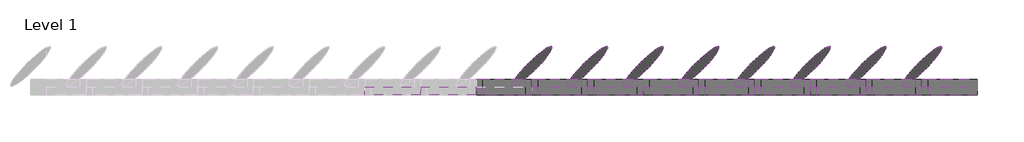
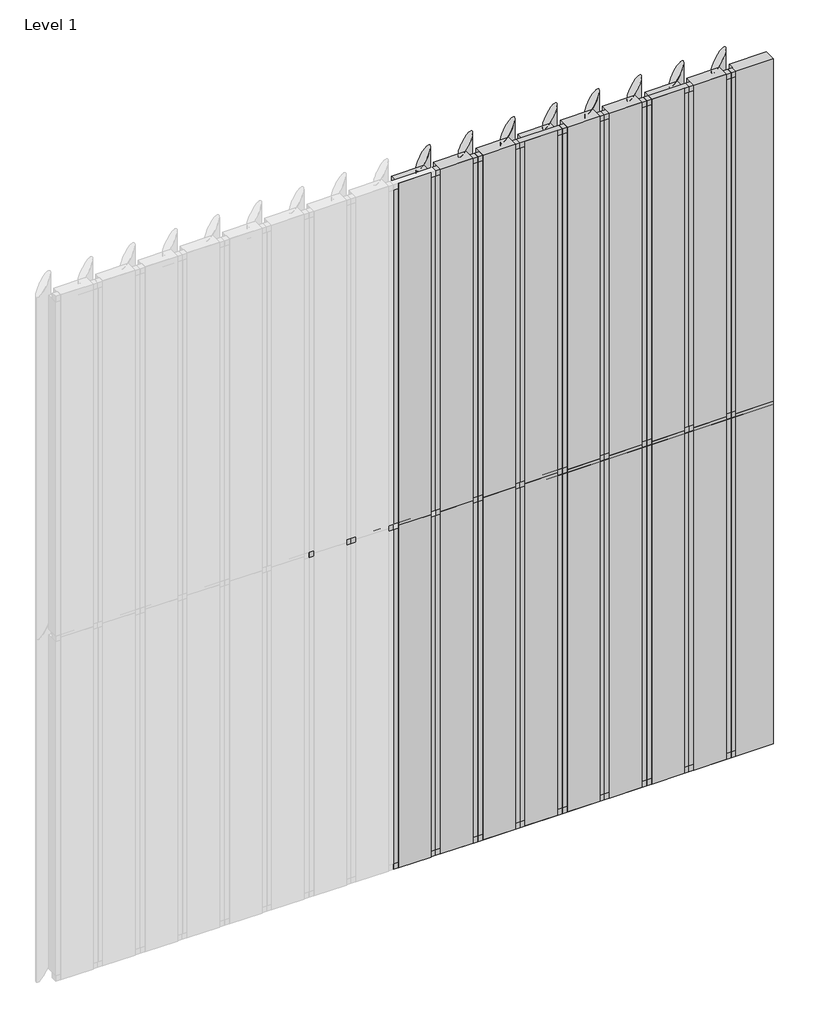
# One storey, part 2 of 2: 43 members, 36 plates.
"""IFC4 building model written with IfcOpenShell, lengths in millimetres."""

from ifc_helpers import new_model, si_unit, origin, place, context, project, spatial, transform, mapped, element, save
from components import rectangular_mullion_80596749, rectangular_mullion_98250b89, rectangular_mullion_795f5a7c, rectangular_mullion_94c598e1, empty_system_panel_empty_e9c97825, empty_system_panel_empty_78d8e544, empty_system_panel_empty_5c88f992

model = new_model("IFC4")

# Units and contexts
model_context = context("Model", 3, world=origin())
ifc_project = project(units=[si_unit("LENGTHUNIT", "METRE", prefix="MILLI")], contexts=[model_context])

# Site, building, storey
site = spatial("IfcSite", under=ifc_project)
building = spatial("IfcBuilding", under=site)
storey = spatial("IfcBuildingStorey", under=building, Name="Level 1", Elevation=0.0)

# Members
placement = place(None, origin())
rectangular_mullion_shape = rectangular_mullion_80596749(model_context)
element("IfcMember", 1, ObjectType="Rectangular Mullion : RSen_21_CWM_blade - 350 ellips - 45°_gen_duco projects", at=placement, inside=storey, context=model_context, shape_type="MappedRepresentation", body=[
    mapped(rectangular_mullion_shape, transform((5650.0, 3000.0, 0.0), x_axis=(-1.0, 0.0, 0.0), y_axis=(0.0, 1.0, 0.0), z_axis=(0.0, 0.0, -1.0))),
])
element("IfcMember", 2, ObjectType="Rectangular Mullion : RSen_21_CWM_blade - 350 ellips - 45°_gen_duco projects", at=placement, inside=storey, context=model_context, shape_type="MappedRepresentation", body=[
    mapped(rectangular_mullion_shape, transform((5300.0, 3000.0, 0.0), x_axis=(-1.0, 0.0, 0.0), y_axis=(0.0, 1.0, 0.0), z_axis=(0.0, 0.0, -1.0))),
])
element("IfcMember", 3, ObjectType="Rectangular Mullion : RSen_21_CWM_blade - 350 ellips - 45°_gen_duco projects", at=placement, inside=storey, context=model_context, shape_type="MappedRepresentation", body=[
    mapped(rectangular_mullion_shape, transform((4950.0, 3000.0, 0.0), x_axis=(-1.0, 0.0, 0.0), y_axis=(0.0, 1.0, 0.0), z_axis=(0.0, 0.0, -1.0))),
])
element("IfcMember", 4, ObjectType="Rectangular Mullion : RSen_21_CWM_blade - 350 ellips - 45°_gen_duco projects", at=placement, inside=storey, context=model_context, shape_type="MappedRepresentation", body=[
    mapped(rectangular_mullion_shape, transform((4600.0, 3000.0, 0.0), x_axis=(-1.0, 0.0, 0.0), y_axis=(0.0, 1.0, 0.0), z_axis=(0.0, 0.0, -1.0))),
])
element("IfcMember", 5, ObjectType="Rectangular Mullion : RSen_21_CWM_blade - 350 ellips - 45°_gen_duco projects", at=placement, inside=storey, context=model_context, shape_type="MappedRepresentation", body=[
    mapped(rectangular_mullion_shape, transform((4250.0, 3000.0, 0.0), x_axis=(-1.0, 0.0, 0.0), y_axis=(0.0, 1.0, 0.0), z_axis=(0.0, 0.0, -1.0))),
])
element("IfcMember", 6, ObjectType="Rectangular Mullion : RSen_21_CWM_blade - 350 ellips - 45°_gen_duco projects", at=placement, inside=storey, context=model_context, shape_type="MappedRepresentation", body=[
    mapped(rectangular_mullion_shape, transform((3900.0, 3000.0, 0.0), x_axis=(-1.0, 0.0, 0.0), y_axis=(0.0, 1.0, 0.0), z_axis=(0.0, 0.0, -1.0))),
])
element("IfcMember", 7, ObjectType="Rectangular Mullion : RSen_21_CWM_blade - 350 ellips - 45°_gen_duco projects", at=placement, inside=storey, context=model_context, shape_type="MappedRepresentation", body=[
    mapped(rectangular_mullion_shape, transform((3550.0, 3000.0, 0.0), x_axis=(-1.0, 0.0, 0.0), y_axis=(0.0, 1.0, 0.0), z_axis=(0.0, 0.0, -1.0))),
])
element("IfcMember", 8, ObjectType="Rectangular Mullion : RSen_21_CWM_blade - 350 ellips - 45°_gen_duco projects", at=placement, inside=storey, context=model_context, shape_type="MappedRepresentation", body=[
    mapped(rectangular_mullion_shape, transform((3200.0, 3000.0, 0.0), x_axis=(-1.0, 0.0, 0.0), y_axis=(0.0, 1.0, 0.0), z_axis=(0.0, 0.0, -1.0))),
])
element("IfcMember", 9, ObjectType="Rectangular Mullion : RSen_21_CWM_blade - 350 ellips - 45°_gen_duco projects", at=placement, inside=storey, context=model_context, shape_type="MappedRepresentation", body=[
    mapped(rectangular_mullion_shape, transform((5650.0, 3000.0, 3000.0), x_axis=(-1.0, 0.0, 0.0), y_axis=(0.0, 1.0, 0.0), z_axis=(0.0, 0.0, -1.0))),
])
element("IfcMember", 10, ObjectType="Rectangular Mullion : RSen_21_CWM_blade - 350 ellips - 45°_gen_duco projects", at=placement, inside=storey, context=model_context, shape_type="MappedRepresentation", body=[
    mapped(rectangular_mullion_shape, transform((5300.0, 3000.0, 3000.0), x_axis=(-1.0, 0.0, 0.0), y_axis=(0.0, 1.0, 0.0), z_axis=(0.0, 0.0, -1.0))),
])
element("IfcMember", 11, ObjectType="Rectangular Mullion : RSen_21_CWM_blade - 350 ellips - 45°_gen_duco projects", at=placement, inside=storey, context=model_context, shape_type="MappedRepresentation", body=[
    mapped(rectangular_mullion_shape, transform((4950.0, 3000.0, 3000.0), x_axis=(-1.0, 0.0, 0.0), y_axis=(0.0, 1.0, 0.0), z_axis=(0.0, 0.0, -1.0))),
])
element("IfcMember", 12, ObjectType="Rectangular Mullion : RSen_21_CWM_blade - 350 ellips - 45°_gen_duco projects", at=placement, inside=storey, context=model_context, shape_type="MappedRepresentation", body=[
    mapped(rectangular_mullion_shape, transform((4600.0, 3000.0, 3000.0), x_axis=(-1.0, 0.0, 0.0), y_axis=(0.0, 1.0, 0.0), z_axis=(0.0, 0.0, -1.0))),
])
element("IfcMember", 13, ObjectType="Rectangular Mullion : RSen_21_CWM_blade - 350 ellips - 45°_gen_duco projects", at=placement, inside=storey, context=model_context, shape_type="MappedRepresentation", body=[
    mapped(rectangular_mullion_shape, transform((4250.0, 3000.0, 3000.0), x_axis=(-1.0, 0.0, 0.0), y_axis=(0.0, 1.0, 0.0), z_axis=(0.0, 0.0, -1.0))),
])
element("IfcMember", 14, ObjectType="Rectangular Mullion : RSen_21_CWM_blade - 350 ellips - 45°_gen_duco projects", at=placement, inside=storey, context=model_context, shape_type="MappedRepresentation", body=[
    mapped(rectangular_mullion_shape, transform((3900.0, 3000.0, 3000.0), x_axis=(-1.0, 0.0, 0.0), y_axis=(0.0, 1.0, 0.0), z_axis=(0.0, 0.0, -1.0))),
])
element("IfcMember", 15, ObjectType="Rectangular Mullion : RSen_21_CWM_blade - 350 ellips - 45°_gen_duco projects", at=placement, inside=storey, context=model_context, shape_type="MappedRepresentation", body=[
    mapped(rectangular_mullion_shape, transform((3550.0, 3000.0, 3000.0), x_axis=(-1.0, 0.0, 0.0), y_axis=(0.0, 1.0, 0.0), z_axis=(0.0, 0.0, -1.0))),
])
element("IfcMember", 16, ObjectType="Rectangular Mullion : RSen_21_CWM_blade - 350 ellips - 45°_gen_duco projects", at=placement, inside=storey, context=model_context, shape_type="MappedRepresentation", body=[
    mapped(rectangular_mullion_shape, transform((3200.0, 3000.0, 3000.0), x_axis=(-1.0, 0.0, 0.0), y_axis=(0.0, 1.0, 0.0), z_axis=(0.0, 0.0, -1.0))),
])
rectangular_mullion_2_shape = rectangular_mullion_98250b89(model_context)
element("IfcMember", 17, ObjectType="Rectangular Mullion : RSen_21_CWM_support profile 50x50 - right_gen_duco projects", at=placement, inside=storey, context=model_context, shape_type="MappedRepresentation", body=[
    mapped(rectangular_mullion_2_shape, transform((6000.0, 3000.0, 0.0), x_axis=(0.0, 0.0, -1.0), y_axis=(0.0, 1.0, 0.0), z_axis=(1.0, 0.0, 0.0))),
])
rectangular_mullion_3_shape = rectangular_mullion_795f5a7c(model_context)
element("IfcMember", 18, ObjectType="Rectangular Mullion : RSen_21_CWM_support profile 50x50 - left_gen_duco projects", at=placement, inside=storey, context=model_context, shape_type="MappedRepresentation", body=[
    mapped(rectangular_mullion_3_shape, transform((5650.0, 3000.0, 6000.0), x_axis=(0.0, 0.0, 1.0), y_axis=(0.0, 1.0, 0.0), z_axis=(-1.0, 0.0, 0.0))),
])
element("IfcMember", 19, ObjectType="Rectangular Mullion : RSen_21_CWM_support profile 50x50 - left_gen_duco projects", at=placement, inside=storey, context=model_context, shape_type="MappedRepresentation", body=[
    mapped(rectangular_mullion_3_shape, transform((5300.0, 3000.0, 6000.0), x_axis=(0.0, 0.0, 1.0), y_axis=(0.0, 1.0, 0.0), z_axis=(-1.0, 0.0, 0.0))),
])
element("IfcMember", 20, ObjectType="Rectangular Mullion : RSen_21_CWM_support profile 50x50 - left_gen_duco projects", at=placement, inside=storey, context=model_context, shape_type="MappedRepresentation", body=[
    mapped(rectangular_mullion_3_shape, transform((4950.0, 3000.0, 6000.0), x_axis=(0.0, 0.0, 1.0), y_axis=(0.0, 1.0, 0.0), z_axis=(-1.0, 0.0, 0.0))),
])
element("IfcMember", 21, ObjectType="Rectangular Mullion : RSen_21_CWM_support profile 50x50 - left_gen_duco projects", at=placement, inside=storey, context=model_context, shape_type="MappedRepresentation", body=[
    mapped(rectangular_mullion_3_shape, transform((4600.0, 3000.0, 6000.0), x_axis=(0.0, 0.0, 1.0), y_axis=(0.0, 1.0, 0.0), z_axis=(-1.0, 0.0, 0.0))),
])
element("IfcMember", 22, ObjectType="Rectangular Mullion : RSen_21_CWM_support profile 50x50 - left_gen_duco projects", at=placement, inside=storey, context=model_context, shape_type="MappedRepresentation", body=[
    mapped(rectangular_mullion_3_shape, transform((4250.0, 3000.0, 6000.0), x_axis=(0.0, 0.0, 1.0), y_axis=(0.0, 1.0, 0.0), z_axis=(-1.0, 0.0, 0.0))),
])
element("IfcMember", 23, ObjectType="Rectangular Mullion : RSen_21_CWM_support profile 50x50 - left_gen_duco projects", at=placement, inside=storey, context=model_context, shape_type="MappedRepresentation", body=[
    mapped(rectangular_mullion_3_shape, transform((3900.0, 3000.0, 6000.0), x_axis=(0.0, 0.0, 1.0), y_axis=(0.0, 1.0, 0.0), z_axis=(-1.0, 0.0, 0.0))),
])
element("IfcMember", 24, ObjectType="Rectangular Mullion : RSen_21_CWM_support profile 50x50 - left_gen_duco projects", at=placement, inside=storey, context=model_context, shape_type="MappedRepresentation", body=[
    mapped(rectangular_mullion_3_shape, transform((3550.0, 3000.0, 6000.0), x_axis=(0.0, 0.0, 1.0), y_axis=(0.0, 1.0, 0.0), z_axis=(-1.0, 0.0, 0.0))),
])
element("IfcMember", 25, ObjectType="Rectangular Mullion : RSen_21_CWM_support profile 50x50 - left_gen_duco projects", at=placement, inside=storey, context=model_context, shape_type="MappedRepresentation", body=[
    mapped(rectangular_mullion_3_shape, transform((3200.0, 3000.0, 6000.0), x_axis=(0.0, 0.0, 1.0), y_axis=(0.0, 1.0, 0.0), z_axis=(-1.0, 0.0, 0.0))),
])
element("IfcMember", 26, ObjectType="Rectangular Mullion : RSen_21_CWM_support profile 50x50 - right_gen_duco projects", at=placement, inside=storey, context=model_context, shape_type="MappedRepresentation", body=[
    mapped(rectangular_mullion_2_shape, transform((5650.0, 3000.0, 0.0), x_axis=(0.0, 0.0, -1.0), y_axis=(0.0, 1.0, 0.0), z_axis=(1.0, 0.0, 0.0))),
])
element("IfcMember", 27, ObjectType="Rectangular Mullion : RSen_21_CWM_support profile 50x50 - right_gen_duco projects", at=placement, inside=storey, context=model_context, shape_type="MappedRepresentation", body=[
    mapped(rectangular_mullion_2_shape, transform((5300.0, 3000.0, 0.0), x_axis=(0.0, 0.0, -1.0), y_axis=(0.0, 1.0, 0.0), z_axis=(1.0, 0.0, 0.0))),
])
element("IfcMember", 28, ObjectType="Rectangular Mullion : RSen_21_CWM_support profile 50x50 - right_gen_duco projects", at=placement, inside=storey, context=model_context, shape_type="MappedRepresentation", body=[
    mapped(rectangular_mullion_2_shape, transform((4950.0, 3000.0, 0.0), x_axis=(0.0, 0.0, -1.0), y_axis=(0.0, 1.0, 0.0), z_axis=(1.0, 0.0, 0.0))),
])
element("IfcMember", 29, ObjectType="Rectangular Mullion : RSen_21_CWM_support profile 50x50 - right_gen_duco projects", at=placement, inside=storey, context=model_context, shape_type="MappedRepresentation", body=[
    mapped(rectangular_mullion_2_shape, transform((4600.0, 3000.0, 0.0), x_axis=(0.0, 0.0, -1.0), y_axis=(0.0, 1.0, 0.0), z_axis=(1.0, 0.0, 0.0))),
])
element("IfcMember", 30, ObjectType="Rectangular Mullion : RSen_21_CWM_support profile 50x50 - right_gen_duco projects", at=placement, inside=storey, context=model_context, shape_type="MappedRepresentation", body=[
    mapped(rectangular_mullion_2_shape, transform((4250.0, 3000.0, 0.0), x_axis=(0.0, 0.0, -1.0), y_axis=(0.0, 1.0, 0.0), z_axis=(1.0, 0.0, 0.0))),
])
element("IfcMember", 31, ObjectType="Rectangular Mullion : RSen_21_CWM_support profile 50x50 - right_gen_duco projects", at=placement, inside=storey, context=model_context, shape_type="MappedRepresentation", body=[
    mapped(rectangular_mullion_2_shape, transform((3900.0, 3000.0, 0.0), x_axis=(0.0, 0.0, -1.0), y_axis=(0.0, 1.0, 0.0), z_axis=(1.0, 0.0, 0.0))),
])
element("IfcMember", 32, ObjectType="Rectangular Mullion : RSen_21_CWM_support profile 50x50 - right_gen_duco projects", at=placement, inside=storey, context=model_context, shape_type="MappedRepresentation", body=[
    mapped(rectangular_mullion_2_shape, transform((3550.0, 3000.0, 0.0), x_axis=(0.0, 0.0, -1.0), y_axis=(0.0, 1.0, 0.0), z_axis=(1.0, 0.0, 0.0))),
])
element("IfcMember", 33, ObjectType="Rectangular Mullion : RSen_21_CWM_support profile 50x50 - right_gen_duco projects", at=placement, inside=storey, context=model_context, shape_type="MappedRepresentation", body=[
    mapped(rectangular_mullion_2_shape, transform((3200.0, 3000.0, 0.0), x_axis=(0.0, 0.0, -1.0), y_axis=(0.0, 1.0, 0.0), z_axis=(1.0, 0.0, 0.0))),
])
rectangular_mullion_4_shape = rectangular_mullion_94c598e1(model_context)
element("IfcMember", 34, ObjectType="Rectangular Mullion : RSen_21_CWM_support profile 50x50_gen_duco projects", at=placement, inside=storey, context=model_context, shape_type="MappedRepresentation", body=[
    mapped(rectangular_mullion_4_shape, transform((5650.0, 3000.0, 3000.0), x_axis=(0.0, 0.0, 1.0), y_axis=(0.0, 1.0, 0.0), z_axis=(-1.0, 0.0, 0.0))),
])
element("IfcMember", 35, ObjectType="Rectangular Mullion : RSen_21_CWM_support profile 50x50_gen_duco projects", at=placement, inside=storey, context=model_context, shape_type="MappedRepresentation", body=[
    mapped(rectangular_mullion_4_shape, transform((5300.0, 3000.0, 3000.0), x_axis=(0.0, 0.0, 1.0), y_axis=(0.0, 1.0, 0.0), z_axis=(-1.0, 0.0, 0.0))),
])
element("IfcMember", 36, ObjectType="Rectangular Mullion : RSen_21_CWM_support profile 50x50_gen_duco projects", at=placement, inside=storey, context=model_context, shape_type="MappedRepresentation", body=[
    mapped(rectangular_mullion_4_shape, transform((4950.0, 3000.0, 3000.0), x_axis=(0.0, 0.0, 1.0), y_axis=(0.0, 1.0, 0.0), z_axis=(-1.0, 0.0, 0.0))),
])
element("IfcMember", 37, ObjectType="Rectangular Mullion : RSen_21_CWM_support profile 50x50_gen_duco projects", at=placement, inside=storey, context=model_context, shape_type="MappedRepresentation", body=[
    mapped(rectangular_mullion_4_shape, transform((4600.0, 3000.0, 3000.0), x_axis=(0.0, 0.0, 1.0), y_axis=(0.0, 1.0, 0.0), z_axis=(-1.0, 0.0, 0.0))),
])
element("IfcMember", 38, ObjectType="Rectangular Mullion : RSen_21_CWM_support profile 50x50_gen_duco projects", at=placement, inside=storey, context=model_context, shape_type="MappedRepresentation", body=[
    mapped(rectangular_mullion_4_shape, transform((4250.0, 3000.0, 3000.0), x_axis=(0.0, 0.0, 1.0), y_axis=(0.0, 1.0, 0.0), z_axis=(-1.0, 0.0, 0.0))),
])
element("IfcMember", 39, ObjectType="Rectangular Mullion : RSen_21_CWM_support profile 50x50_gen_duco projects", at=placement, inside=storey, context=model_context, shape_type="MappedRepresentation", body=[
    mapped(rectangular_mullion_4_shape, transform((3900.0, 3000.0, 3000.0), x_axis=(0.0, 0.0, 1.0), y_axis=(0.0, 1.0, 0.0), z_axis=(-1.0, 0.0, 0.0))),
])
element("IfcMember", 40, ObjectType="Rectangular Mullion : RSen_21_CWM_support profile 50x50_gen_duco projects", at=placement, inside=storey, context=model_context, shape_type="MappedRepresentation", body=[
    mapped(rectangular_mullion_4_shape, transform((3550.0, 3000.0, 3000.0), x_axis=(0.0, 0.0, 1.0), y_axis=(0.0, 1.0, 0.0), z_axis=(-1.0, 0.0, 0.0))),
])
element("IfcMember", 41, ObjectType="Rectangular Mullion : RSen_21_CWM_support profile 50x50_gen_duco projects", at=placement, inside=storey, context=model_context, shape_type="MappedRepresentation", body=[
    mapped(rectangular_mullion_4_shape, transform((3200.0, 3000.0, 3000.0), x_axis=(0.0, 0.0, 1.0), y_axis=(0.0, 1.0, 0.0), z_axis=(-1.0, 0.0, 0.0))),
])
element("IfcMember", 42, ObjectType="Rectangular Mullion : RSen_21_CWM_support profile 50x50_gen_duco projects", at=placement, inside=storey, context=model_context, shape_type="MappedRepresentation", body=[
    mapped(rectangular_mullion_4_shape, transform((2500.0, 3000.0, 3000.0), x_axis=(0.0, 0.0, 1.0), y_axis=(0.0, 1.0, 0.0), z_axis=(-1.0, 0.0, 0.0))),
])
element("IfcMember", 43, ObjectType="Rectangular Mullion : RSen_21_CWM_support profile 50x50_gen_duco projects", at=placement, inside=storey, context=model_context, shape_type="MappedRepresentation", body=[
    mapped(rectangular_mullion_4_shape, transform((2150.0, 3000.0, 3000.0), x_axis=(0.0, 0.0, 1.0), y_axis=(0.0, 1.0, 0.0), z_axis=(-1.0, 0.0, 0.0))),
])

# Plates
empty_system_panel_empty_shape = empty_system_panel_empty_e9c97825(model_context)
element("IfcPlate", 44, ObjectType="Empty System Panel : Empty", at=placement, inside=storey, context=model_context, shape_type="MappedRepresentation", body=[
    mapped(empty_system_panel_empty_shape, transform((5845.1525433, 3000.0, 0.0), x_axis=(-1.0, 0.0, 0.0), y_axis=(0.0, -1.0, 0.0), z_axis=(0.0, 0.0, 1.0))),
])
element("IfcPlate", 45, ObjectType="Empty System Panel : Empty", at=placement, inside=storey, context=model_context, shape_type="MappedRepresentation", body=[
    mapped(empty_system_panel_empty_shape, transform((5845.1525433, 3000.0, 3000.0), x_axis=(-1.0, 0.0, 0.0), y_axis=(0.0, -1.0, 0.0), z_axis=(0.0, 0.0, 1.0))),
])
empty_system_panel_empty_2_shape = empty_system_panel_empty_78d8e544(model_context)
element("IfcPlate", 46, ObjectType="Empty System Panel : Empty", at=placement, inside=storey, context=model_context, shape_type="MappedRepresentation", body=[
    mapped(empty_system_panel_empty_2_shape, transform((5475.0, 3000.0, 0.0), x_axis=(-1.0, 0.0, 0.0), y_axis=(0.0, -1.0, 0.0), z_axis=(0.0, 0.0, 1.0))),
])
element("IfcPlate", 47, ObjectType="Empty System Panel : Empty", at=placement, inside=storey, context=model_context, shape_type="MappedRepresentation", body=[
    mapped(empty_system_panel_empty_2_shape, transform((5125.0, 3000.0, 0.0), x_axis=(-1.0, 0.0, 0.0), y_axis=(0.0, -1.0, 0.0), z_axis=(0.0, 0.0, 1.0))),
])
element("IfcPlate", 48, ObjectType="Empty System Panel : Empty", at=placement, inside=storey, context=model_context, shape_type="MappedRepresentation", body=[
    mapped(empty_system_panel_empty_2_shape, transform((4775.0, 3000.0, 0.0), x_axis=(-1.0, 0.0, 0.0), y_axis=(0.0, -1.0, 0.0), z_axis=(0.0, 0.0, 1.0))),
])
element("IfcPlate", 49, ObjectType="Empty System Panel : Empty", at=placement, inside=storey, context=model_context, shape_type="MappedRepresentation", body=[
    mapped(empty_system_panel_empty_2_shape, transform((4425.0, 3000.0, 0.0), x_axis=(-1.0, 0.0, 0.0), y_axis=(0.0, -1.0, 0.0), z_axis=(0.0, 0.0, 1.0))),
])
element("IfcPlate", 50, ObjectType="Empty System Panel : Empty", at=placement, inside=storey, context=model_context, shape_type="MappedRepresentation", body=[
    mapped(empty_system_panel_empty_2_shape, transform((4075.0, 3000.0, 0.0), x_axis=(-1.0, 0.0, 0.0), y_axis=(0.0, -1.0, 0.0), z_axis=(0.0, 0.0, 1.0))),
])
element("IfcPlate", 51, ObjectType="Empty System Panel : Empty", at=placement, inside=storey, context=model_context, shape_type="MappedRepresentation", body=[
    mapped(empty_system_panel_empty_2_shape, transform((3725.0, 3000.0, 0.0), x_axis=(-1.0, 0.0, 0.0), y_axis=(0.0, -1.0, 0.0), z_axis=(0.0, 0.0, 1.0))),
])
element("IfcPlate", 52, ObjectType="Empty System Panel : Empty", at=placement, inside=storey, context=model_context, shape_type="MappedRepresentation", body=[
    mapped(empty_system_panel_empty_2_shape, transform((3375.0, 3000.0, 0.0), x_axis=(-1.0, 0.0, 0.0), y_axis=(0.0, -1.0, 0.0), z_axis=(0.0, 0.0, 1.0))),
])
element("IfcPlate", 53, ObjectType="Empty System Panel : Empty", at=placement, inside=storey, context=model_context, shape_type="MappedRepresentation", body=[
    mapped(empty_system_panel_empty_2_shape, transform((3025.0, 3000.0, 0.0), x_axis=(-1.0, 0.0, 0.0), y_axis=(0.0, -1.0, 0.0), z_axis=(0.0, 0.0, 1.0))),
])
element("IfcPlate", 54, ObjectType="Empty System Panel : Empty", at=placement, inside=storey, context=model_context, shape_type="MappedRepresentation", body=[
    mapped(empty_system_panel_empty_2_shape, transform((5475.0, 3000.0, 3000.0), x_axis=(-1.0, 0.0, 0.0), y_axis=(0.0, -1.0, 0.0), z_axis=(0.0, 0.0, 1.0))),
])
element("IfcPlate", 55, ObjectType="Empty System Panel : Empty", at=placement, inside=storey, context=model_context, shape_type="MappedRepresentation", body=[
    mapped(empty_system_panel_empty_2_shape, transform((5125.0, 3000.0, 3000.0), x_axis=(-1.0, 0.0, 0.0), y_axis=(0.0, -1.0, 0.0), z_axis=(0.0, 0.0, 1.0))),
])
element("IfcPlate", 56, ObjectType="Empty System Panel : Empty", at=placement, inside=storey, context=model_context, shape_type="MappedRepresentation", body=[
    mapped(empty_system_panel_empty_2_shape, transform((4775.0, 3000.0, 3000.0), x_axis=(-1.0, 0.0, 0.0), y_axis=(0.0, -1.0, 0.0), z_axis=(0.0, 0.0, 1.0))),
])
element("IfcPlate", 57, ObjectType="Empty System Panel : Empty", at=placement, inside=storey, context=model_context, shape_type="MappedRepresentation", body=[
    mapped(empty_system_panel_empty_2_shape, transform((4425.0, 3000.0, 3000.0), x_axis=(-1.0, 0.0, 0.0), y_axis=(0.0, -1.0, 0.0), z_axis=(0.0, 0.0, 1.0))),
])
element("IfcPlate", 58, ObjectType="Empty System Panel : Empty", at=placement, inside=storey, context=model_context, shape_type="MappedRepresentation", body=[
    mapped(empty_system_panel_empty_2_shape, transform((4075.0, 3000.0, 3000.0), x_axis=(-1.0, 0.0, 0.0), y_axis=(0.0, -1.0, 0.0), z_axis=(0.0, 0.0, 1.0))),
])
element("IfcPlate", 59, ObjectType="Empty System Panel : Empty", at=placement, inside=storey, context=model_context, shape_type="MappedRepresentation", body=[
    mapped(empty_system_panel_empty_2_shape, transform((3725.0, 3000.0, 3000.0), x_axis=(-1.0, 0.0, 0.0), y_axis=(0.0, -1.0, 0.0), z_axis=(0.0, 0.0, 1.0))),
])
element("IfcPlate", 60, ObjectType="Empty System Panel : Empty", at=placement, inside=storey, context=model_context, shape_type="MappedRepresentation", body=[
    mapped(empty_system_panel_empty_2_shape, transform((3375.0, 3000.0, 3000.0), x_axis=(-1.0, 0.0, 0.0), y_axis=(0.0, -1.0, 0.0), z_axis=(0.0, 0.0, 1.0))),
])
element("IfcPlate", 61, ObjectType="Empty System Panel : Empty", at=placement, inside=storey, context=model_context, shape_type="MappedRepresentation", body=[
    mapped(empty_system_panel_empty_2_shape, transform((3025.0, 3000.0, 3000.0), x_axis=(-1.0, 0.0, 0.0), y_axis=(0.0, -1.0, 0.0), z_axis=(0.0, 0.0, 1.0))),
])
empty_system_panel_empty_3_shape = empty_system_panel_empty_5c88f992(model_context)
element("IfcPlate", 62, ObjectType="Empty System Panel : Empty", at=placement, inside=storey, context=model_context, shape_type="MappedRepresentation", body=[
    mapped(empty_system_panel_empty_3_shape, transform((5825.0, 3000.0, 50.0), x_axis=(-1.0, 0.0, 0.0), y_axis=(0.0, -1.0, 0.0), z_axis=(0.0, 0.0, 1.0))),
])
element("IfcPlate", 63, ObjectType="Empty System Panel : Empty", at=placement, inside=storey, context=model_context, shape_type="MappedRepresentation", body=[
    mapped(empty_system_panel_empty_3_shape, transform((5475.0, 3000.0, 50.0), x_axis=(-1.0, 0.0, 0.0), y_axis=(0.0, -1.0, 0.0), z_axis=(0.0, 0.0, 1.0))),
])
element("IfcPlate", 64, ObjectType="Empty System Panel : Empty", at=placement, inside=storey, context=model_context, shape_type="MappedRepresentation", body=[
    mapped(empty_system_panel_empty_3_shape, transform((5125.0, 3000.0, 50.0), x_axis=(-1.0, 0.0, 0.0), y_axis=(0.0, -1.0, 0.0), z_axis=(0.0, 0.0, 1.0))),
])
element("IfcPlate", 65, ObjectType="Empty System Panel : Empty", at=placement, inside=storey, context=model_context, shape_type="MappedRepresentation", body=[
    mapped(empty_system_panel_empty_3_shape, transform((4775.0, 3000.0, 50.0), x_axis=(-1.0, 0.0, 0.0), y_axis=(0.0, -1.0, 0.0), z_axis=(0.0, 0.0, 1.0))),
])
element("IfcPlate", 66, ObjectType="Empty System Panel : Empty", at=placement, inside=storey, context=model_context, shape_type="MappedRepresentation", body=[
    mapped(empty_system_panel_empty_3_shape, transform((4425.0, 3000.0, 50.0), x_axis=(-1.0, 0.0, 0.0), y_axis=(0.0, -1.0, 0.0), z_axis=(0.0, 0.0, 1.0))),
])
element("IfcPlate", 67, ObjectType="Empty System Panel : Empty", at=placement, inside=storey, context=model_context, shape_type="MappedRepresentation", body=[
    mapped(empty_system_panel_empty_3_shape, transform((4075.0, 3000.0, 50.0), x_axis=(-1.0, 0.0, 0.0), y_axis=(0.0, -1.0, 0.0), z_axis=(0.0, 0.0, 1.0))),
])
element("IfcPlate", 68, ObjectType="Empty System Panel : Empty", at=placement, inside=storey, context=model_context, shape_type="MappedRepresentation", body=[
    mapped(empty_system_panel_empty_3_shape, transform((3725.0, 3000.0, 50.0), x_axis=(-1.0, 0.0, 0.0), y_axis=(0.0, -1.0, 0.0), z_axis=(0.0, 0.0, 1.0))),
])
element("IfcPlate", 69, ObjectType="Empty System Panel : Empty", at=placement, inside=storey, context=model_context, shape_type="MappedRepresentation", body=[
    mapped(empty_system_panel_empty_3_shape, transform((3375.0, 3000.0, 50.0), x_axis=(-1.0, 0.0, 0.0), y_axis=(0.0, -1.0, 0.0), z_axis=(0.0, 0.0, 1.0))),
])
element("IfcPlate", 70, ObjectType="Empty System Panel : Empty", at=placement, inside=storey, context=model_context, shape_type="MappedRepresentation", body=[
    mapped(empty_system_panel_empty_3_shape, transform((3025.0, 3000.0, 50.0), x_axis=(-1.0, 0.0, 0.0), y_axis=(0.0, -1.0, 0.0), z_axis=(0.0, 0.0, 1.0))),
])
element("IfcPlate", 71, ObjectType="Empty System Panel : Empty", at=placement, inside=storey, context=model_context, shape_type="MappedRepresentation", body=[
    mapped(empty_system_panel_empty_3_shape, transform((5825.0, 3000.0, 3025.0), x_axis=(-1.0, 0.0, 0.0), y_axis=(0.0, -1.0, 0.0), z_axis=(0.0, 0.0, 1.0))),
])
element("IfcPlate", 72, ObjectType="Empty System Panel : Empty", at=placement, inside=storey, context=model_context, shape_type="MappedRepresentation", body=[
    mapped(empty_system_panel_empty_3_shape, transform((5475.0, 3000.0, 3025.0), x_axis=(-1.0, 0.0, 0.0), y_axis=(0.0, -1.0, 0.0), z_axis=(0.0, 0.0, 1.0))),
])
element("IfcPlate", 73, ObjectType="Empty System Panel : Empty", at=placement, inside=storey, context=model_context, shape_type="MappedRepresentation", body=[
    mapped(empty_system_panel_empty_3_shape, transform((5125.0, 3000.0, 3025.0), x_axis=(-1.0, 0.0, 0.0), y_axis=(0.0, -1.0, 0.0), z_axis=(0.0, 0.0, 1.0))),
])
element("IfcPlate", 74, ObjectType="Empty System Panel : Empty", at=placement, inside=storey, context=model_context, shape_type="MappedRepresentation", body=[
    mapped(empty_system_panel_empty_3_shape, transform((4775.0, 3000.0, 3025.0), x_axis=(-1.0, 0.0, 0.0), y_axis=(0.0, -1.0, 0.0), z_axis=(0.0, 0.0, 1.0))),
])
element("IfcPlate", 75, ObjectType="Empty System Panel : Empty", at=placement, inside=storey, context=model_context, shape_type="MappedRepresentation", body=[
    mapped(empty_system_panel_empty_3_shape, transform((4425.0, 3000.0, 3025.0), x_axis=(-1.0, 0.0, 0.0), y_axis=(0.0, -1.0, 0.0), z_axis=(0.0, 0.0, 1.0))),
])
element("IfcPlate", 76, ObjectType="Empty System Panel : Empty", at=placement, inside=storey, context=model_context, shape_type="MappedRepresentation", body=[
    mapped(empty_system_panel_empty_3_shape, transform((4075.0, 3000.0, 3025.0), x_axis=(-1.0, 0.0, 0.0), y_axis=(0.0, -1.0, 0.0), z_axis=(0.0, 0.0, 1.0))),
])
element("IfcPlate", 77, ObjectType="Empty System Panel : Empty", at=placement, inside=storey, context=model_context, shape_type="MappedRepresentation", body=[
    mapped(empty_system_panel_empty_3_shape, transform((3725.0, 3000.0, 3025.0), x_axis=(-1.0, 0.0, 0.0), y_axis=(0.0, -1.0, 0.0), z_axis=(0.0, 0.0, 1.0))),
])
element("IfcPlate", 78, ObjectType="Empty System Panel : Empty", at=placement, inside=storey, context=model_context, shape_type="MappedRepresentation", body=[
    mapped(empty_system_panel_empty_3_shape, transform((3375.0, 3000.0, 3025.0), x_axis=(-1.0, 0.0, 0.0), y_axis=(0.0, -1.0, 0.0), z_axis=(0.0, 0.0, 1.0))),
])
element("IfcPlate", 79, ObjectType="Empty System Panel : Empty", at=placement, inside=storey, context=model_context, shape_type="MappedRepresentation", body=[
    mapped(empty_system_panel_empty_3_shape, transform((3025.0, 3000.0, 3025.0), x_axis=(-1.0, 0.0, 0.0), y_axis=(0.0, -1.0, 0.0), z_axis=(0.0, 0.0, 1.0))),
])

save(model, "model.ifc")
